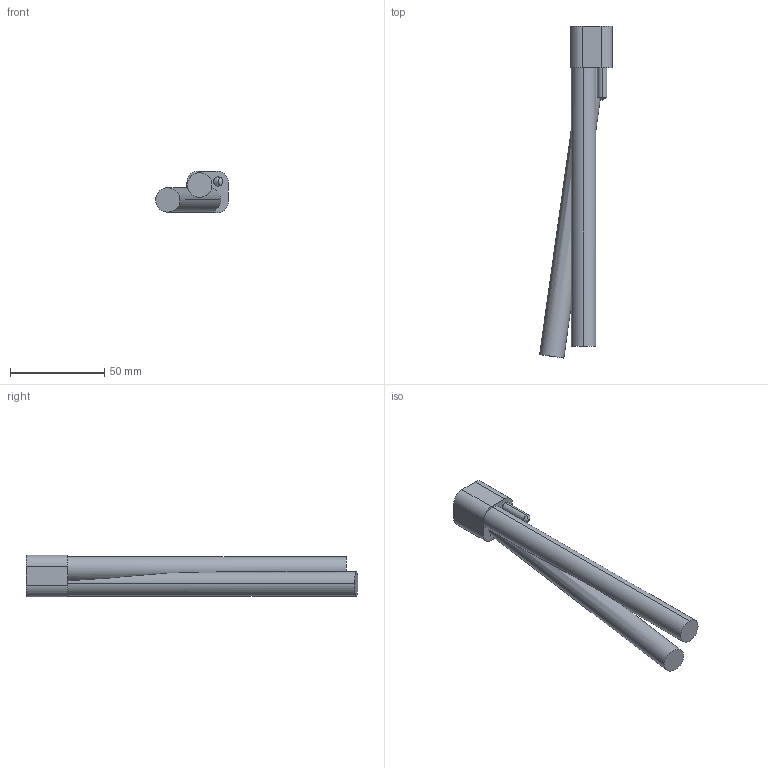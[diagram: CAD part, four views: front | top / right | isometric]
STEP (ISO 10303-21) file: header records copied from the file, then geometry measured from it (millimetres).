
FILE_DESCRIPTION (( 'STEP AP203' ), '1' );
FILE_NAME ('DR22100L-08.STEP', '2016-11-08T07:25:51', ( '' ), ( '' ), 'SwSTEP 2.0', 'SolidWorks 2015', '' );
FILE_SCHEMA (( 'CONFIG_CONTROL_DESIGN' ));
Length unit declared in the file: millimetre
Products named in the file (1): DR22100L-08
Bounding box: 38.58 x 176.18 x 22.02 mm (x, y, z)
Volume: 47923.7 mm3; surface area: 13185.6 mm2
Topology: 1 solids, 1 shells, 20 faces, 49 edges, 31 vertices
Faces by surface type: cylinder 10, plane 8, cone 2
Entity records: 734 total; most frequent: CARTESIAN_POINT 188, DIRECTION 102, ORIENTED_EDGE 94, EDGE_CURVE 47, AXIS2_PLACEMENT_3D 39, VERTEX_POINT 31, LINE 24, VECTOR 24
